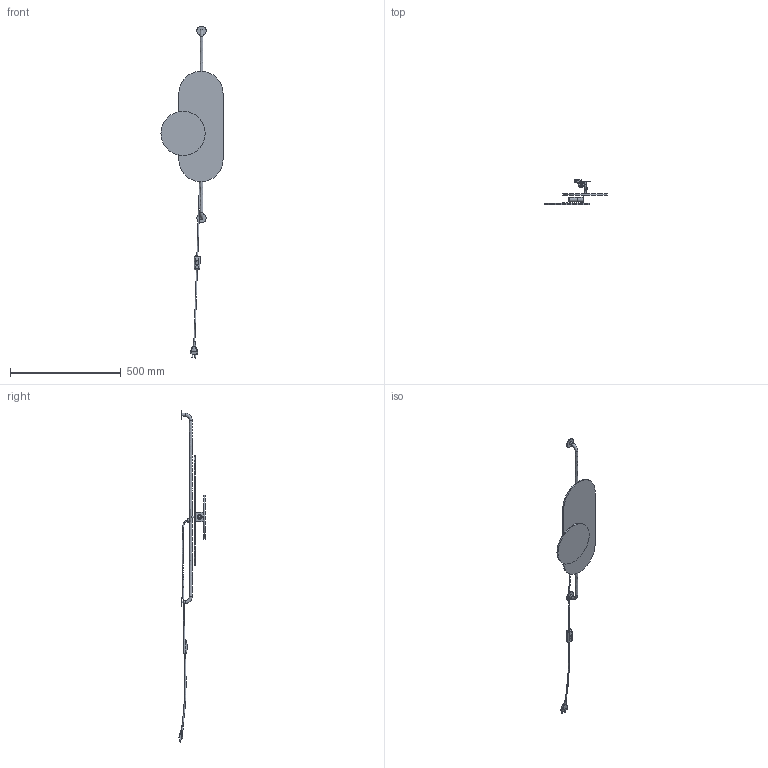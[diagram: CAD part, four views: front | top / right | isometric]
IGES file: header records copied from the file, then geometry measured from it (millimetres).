
Start section: SolidWorks IGES file using analytic representation for surfaces
Global section: file name: X:\PRODUKT\Modele 3D_WWW\_KOLEKCJE WWW\WHEEL\8430\WHEEL-LUX-I-8430.IGS; native system: SolidWorks 2021; preprocessor: SolidWorks 2021; author: gabriela.tworek; date: 220902.091447; units: millimetre
Bounding box: 280.6 x 118.45 x 1502.02 mm (x, y, z)
Surface area: 350580.6 mm2 (no closed solid volume)
Topology: 0 solids, 0 shells, 151 faces, 570 edges, 551 vertices
Faces by surface type: bspline 108, revolution 43
